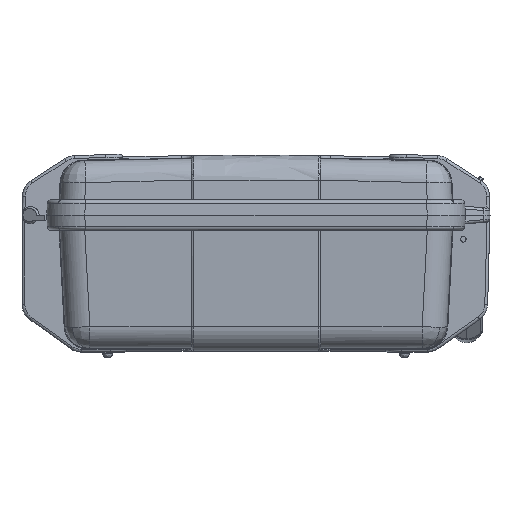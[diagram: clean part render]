
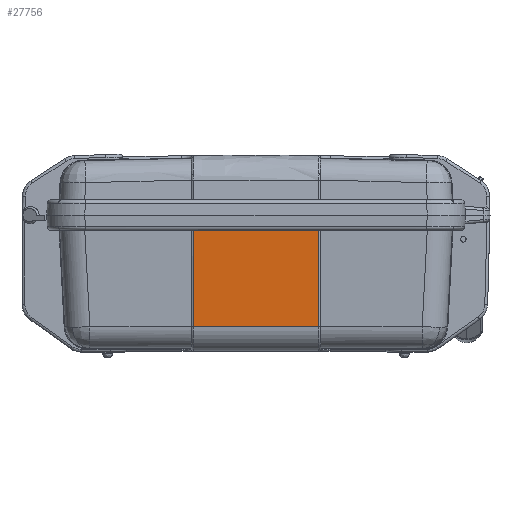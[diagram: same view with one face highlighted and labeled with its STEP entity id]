
A CAD part, left-side view. The second image highlights one B-rep face of the part: STEP entity #27756.
In plain terms, the highlighted planar face has unit normal (-0.999, 0, -0.052) as drawn and (0.999, 0, 0.052) by its records, which use the part's own axes.
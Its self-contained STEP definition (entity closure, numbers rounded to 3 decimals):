
#27635 = VERTEX_POINT('',#27636);
#27636 = CARTESIAN_POINT('',(81915.091,-117427.114,
    11764.161));
#27660 = EDGE_CURVE('',#27635,#27661,#27663,.T.);
#27661 = VERTEX_POINT('',#27662);
#27662 = CARTESIAN_POINT('',(81917.749,-117427.114,
    11713.454));
#27663 = LINE('',#27664,#27665);
#27664 = CARTESIAN_POINT('',(81915.091,-117427.114,
    11764.161));
#27665 = VECTOR('',#27666,1.);
#27666 = DIRECTION('',(0.052,0.,
    -0.999));
#27737 = VERTEX_POINT('',#27738);
#27738 = CARTESIAN_POINT('',(81917.749,-117493.114,
    11713.454));
#27746 = EDGE_CURVE('',#27737,#27661,#27747,.T.);
#27747 = LINE('',#27748,#27749);
#27748 = CARTESIAN_POINT('',(81917.749,-117493.114,
    11713.454));
#27749 = VECTOR('',#27750,1.);
#27750 = DIRECTION('',(0.,1.,0.));
#27756 = ADVANCED_FACE('',(#27757),#27775,.T.);
#27757 = FACE_BOUND('',#27758,.T.);
#27758 = EDGE_LOOP('',(#27759,#27767,#27768,#27769));
#27759 = ORIENTED_EDGE('',*,*,#27760,.F.);
#27760 = EDGE_CURVE('',#27737,#27761,#27763,.T.);
#27761 = VERTEX_POINT('',#27762);
#27762 = CARTESIAN_POINT('',(81915.091,-117493.114,
    11764.161));
#27763 = LINE('',#27764,#27765);
#27764 = CARTESIAN_POINT('',(81917.749,-117493.114,
    11713.454));
#27765 = VECTOR('',#27766,1.);
#27766 = DIRECTION('',(-0.052,0.,
    0.999));
#27767 = ORIENTED_EDGE('',*,*,#27746,.T.);
#27768 = ORIENTED_EDGE('',*,*,#27660,.F.);
#27769 = ORIENTED_EDGE('',*,*,#27770,.F.);
#27770 = EDGE_CURVE('',#27761,#27635,#27771,.T.);
#27771 = LINE('',#27772,#27773);
#27772 = CARTESIAN_POINT('',(81915.091,-117493.114,
    11764.161));
#27773 = VECTOR('',#27774,1.);
#27774 = DIRECTION('',(0.,1.,0.));
#27775 = PLANE('',#27776);
#27776 = AXIS2_PLACEMENT_3D('',#27777,#27778,#27779);
#27777 = CARTESIAN_POINT('',(81916.42,-117460.114,
    11738.808));
#27778 = DIRECTION('',(0.999,0.,0.052));
#27779 = DIRECTION('',(0.052,0.,-0.999));
